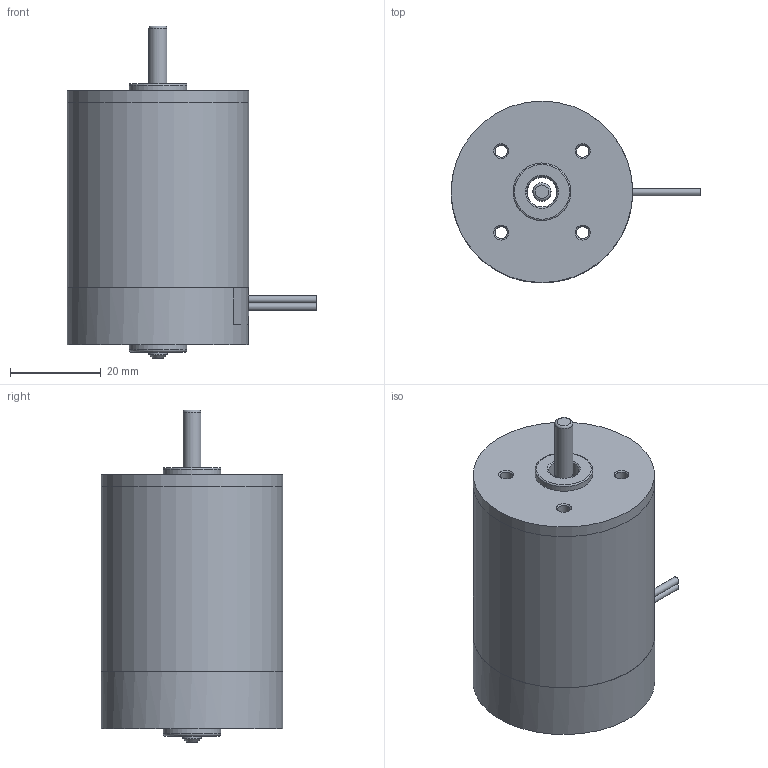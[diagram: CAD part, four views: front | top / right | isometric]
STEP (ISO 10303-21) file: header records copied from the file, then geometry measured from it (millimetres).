
FILE_DESCRIPTION((''),'2;1');
FILE_NAME('D:\연구개발부2팀 1파트\10_진행업무\3D\RM4_SERIES\RM43ㅁBL.stp','2014-06-23T10:14:13',('song'),(''),'Autodesk Inventor 2011','Autodesk Inventor 2011','');
FILE_SCHEMA(('AUTOMOTIVE_DESIGN { 1 0 10303 214 1 1 1 1 }'));
Length unit declared in the file: millimetre
Products named in the file (7): RM43ㅁBL; RM4TYPE_FRONT_HOUSING_; RM4TYPE_PIPE_HOUSING_pi40XL40.8; RM43TYPE_SHAFT; REAR_HOUSING__ASS'Y_LEAD; RM4TYPE_BRUSH_BRAKET_LEAD; RM4TYPE_REAR_HOUSING
Assembly tree (5 placements, depth 2):
  RM43ㅁBL
    RM4TYPE_FRONT_HOUSING_
    RM4TYPE_PIPE_HOUSING_pi40XL40.8
    RM43TYPE_SHAFT
  REAR_HOUSING__ASS'Y_LEAD
    RM4TYPE_BRUSH_BRAKET_LEAD
    RM4TYPE_REAR_HOUSING
Bounding box: 55 x 40 x 73.14 mm (x, y, z)
Volume: 19624.2 mm3; surface area: 19915.4 mm2
Topology: 5 solids, 6 shells, 68 faces, 145 edges, 90 vertices
Faces by surface type: plane 29, cylinder 24, cone 12, torus 3
Full cylindrical faces by diameter (mm): 1.6 x2, 2.7 x4, 2.8 x4, 3.7 x2, 3.969 x1, 4 x1, 6.5 x1, 6.65 x1, 12.7 x2, 36.5 x1, 40 x3
Entity records: 1859 total; most frequent: DIRECTION 330, CARTESIAN_POINT 265, ORIENTED_EDGE 204, AXIS2_PLACEMENT_3D 147, EDGE_LOOP 133, EDGE_CURVE 102, VERTEX_POINT 82, FACE_OUTER_BOUND 68
